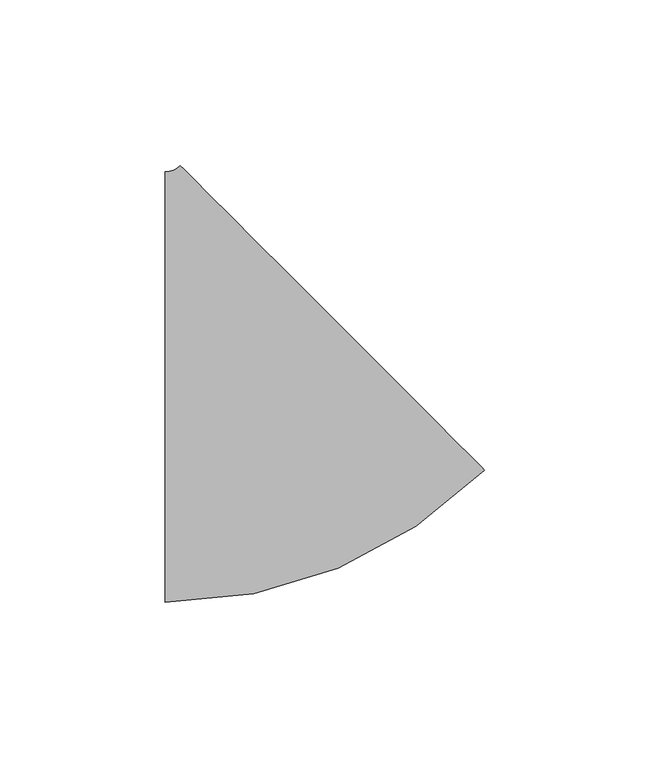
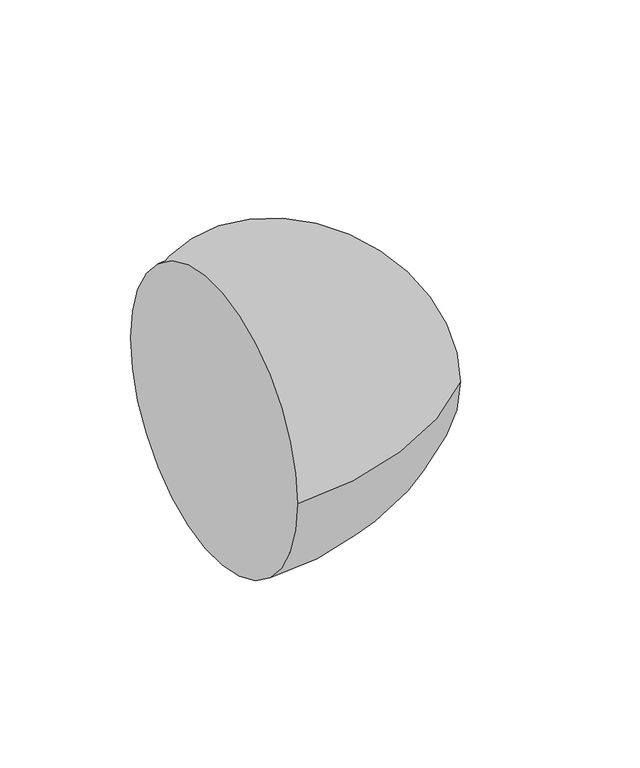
"""IFC4 building model written with IfcOpenShell, lengths in millimetres: pipe fitting geometry, M_Codo - Genérico : Estándar."""

from ifc_helpers import new_model, si_unit, point, frame, origin, place, context, project, spatial, circle_curve, ellipse_curve, trimmed, source, transform, mapped, element, save
from ifc_brep_helpers import plane_surface, revolved_surface, advanced_brep


def pipe_fitting_6ea3b2c3(model_context):
    return source(origin(), model_context, "Body", "AdvancedBrep", [
        advanced_brep(
        [(-29.5875886, -65.0875, 0.0), (-29.5875886, 65.0875, 0.0), (66.9437218, -25.1066957, 0.0), (-25.0977602, 66.9470723, 0.0)],
        [
            (0, 1, circle_curve(frame((-29.5875886, 0.0, 0.0), z_axis=(-1.0, 0.0, 0.0), x_axis=(0.0, 1.0, 0.0)), 65.0875)),
            (1, 0, circle_curve(frame((-29.5875886, 0.0, 0.0), z_axis=(-1.0, 0.0, 0.0), x_axis=(0.0, 1.0, 0.0)), 65.0875)),
            (2, 3, circle_curve(frame((20.9229808, 20.9201883, 0.0), z_axis=(0.7071539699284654, 0.7070595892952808, 0.0), x_axis=(-0.7070595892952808, 0.7071539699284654, 0.0)), 65.0875)),
            (3, 2, circle_curve(frame((20.9229808, 20.9201883, 0.0), z_axis=(0.7071539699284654, 0.7070595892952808, 0.0), x_axis=(-0.7070595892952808, 0.7071539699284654, 0.0)), 65.0875)),
            (3, 1, circle_curve(frame((-29.5875886, 71.4375, 0.0), z_axis=(0.0, 0.0, -1.0), x_axis=(0.0, -1.0, 0.0)), 6.35)),
            (0, 2, circle_curve(frame((-29.5875886, 71.4375, 0.0), z_axis=(0.0, 0.0, 1.0), x_axis=(0.0, -1.0, 0.0)), 136.525)),
        ],
        [
            plane_surface(frame((-29.5875886, 0.0, 0.0), z_axis=(-1.0, 0.0, 0.0), x_axis=(0.0, 0.0, 1.0))),
            plane_surface(frame((20.9229808, 20.9201883, 0.0), z_axis=(0.7071539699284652, 0.7070595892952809, 0.0), x_axis=(0.0, 0.0, 1.0))),
            revolved_surface(trimmed(ellipse_curve(frame((-29.5875886, 0.0, 0.0), z_axis=(-1.0, 0.0, 0.0), x_axis=(0.0, 1.0, 0.0)), 65.0875, 65.0875), [point((-29.5875886, -65.0875, 0.0))], [point((-29.5875886, 65.0875, 0.0))], True, "CARTESIAN"), (-29.5875886, 71.4375, 0.0), (0.0, 0.0, 1.0)),
            revolved_surface(trimmed(ellipse_curve(frame((-29.5875886, 0.0, 0.0), z_axis=(-1.0, 0.0, 0.0), x_axis=(0.0, 1.0, 0.0)), 65.0875, 65.0875), [point((-29.5875886, 65.0875, 0.0))], [point((-29.5875886, -65.0875, 0.0))], True, "CARTESIAN"), (-29.5875886, 71.4375, 0.0), (0.0, 0.0, 1.0)),
        ],
        [
            (0, [[1, 2]]),
            (1, [[3, 4]]),
            (2, [[5, -1, 6, -4]]),
            (3, [[-6, -2, -5, -3]]),
        ],
    ),
    ])


if __name__ == "__main__":
    model = new_model("IFC4")
    model_context = context("Model", 3, world=origin())
    ifc_project = project(units=[si_unit("LENGTHUNIT", "METRE", prefix="MILLI")], contexts=[model_context])
    site = spatial("IfcSite", under=ifc_project)
    building = spatial("IfcBuilding", under=site)
    placement = place(None, origin())
    pipe_fitting_shape = pipe_fitting_6ea3b2c3(model_context)
    element("IfcPipeFitting", 1, ObjectType="M_Codo - Genérico : Estándar", at=placement, inside=building, context=model_context, shape_type="MappedRepresentation", body=[
        mapped(pipe_fitting_shape, transform((0.0, 0.0, 0.0), x_axis=(1.0, 0.0, 0.0), y_axis=(0.0, 1.0, 0.0), z_axis=(0.0, 0.0, 1.0))),
    ])
    save(model, "model.ifc")
